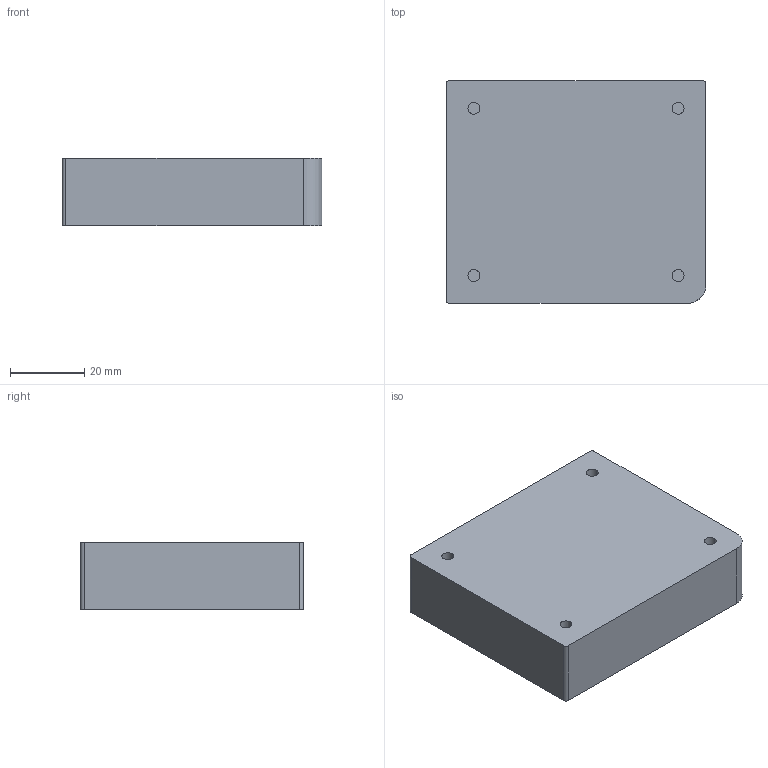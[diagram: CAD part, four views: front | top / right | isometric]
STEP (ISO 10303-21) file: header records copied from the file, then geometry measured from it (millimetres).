
FILE_DESCRIPTION(('CATIA V5 STEP Exchange'),'2;1');
FILE_NAME('D:\姚明阳\1、工装图纸\2、腰托阀（开关）治具工装 -2022.11.26更新\AGZL01 腰托阀压钢珠工装1\AGZL01 设计文件（可编辑版）\AGZL01.04_V1.stp','2022-12-28T02:08:44+00:00',('none'),('none'),'CATIA Version 5 Release 21 GA (IN-10)','CATIA V5 STEP AP214','none');
FILE_SCHEMA(('AUTOMOTIVE_DESIGN { 1 0 10303 214 1 1 1 1 }'));
Length unit declared in the file: millimetre
Products named in the file (1): AGZL01.04_V1
Bounding box: 70 x 60 x 18.1 mm (x, y, z)
Volume: 75525.2 mm3; surface area: 13514.4 mm2
Topology: 1 solids, 1 shells, 22 faces, 48 edges, 32 vertices
Faces by surface type: cylinder 12, plane 10
Entity records: 579 total; most frequent: CARTESIAN_POINT 96, ORIENTED_EDGE 96, DIRECTION 78, EDGE_CURVE 48, AXIS2_PLACEMENT_3D 40, VERTEX_POINT 32, EDGE_LOOP 26, VECTOR 24
